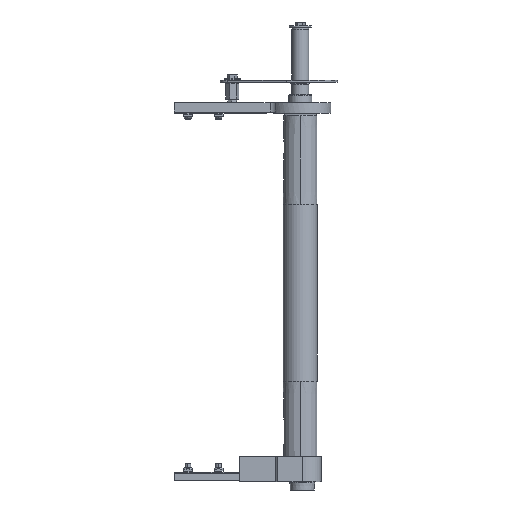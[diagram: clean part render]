
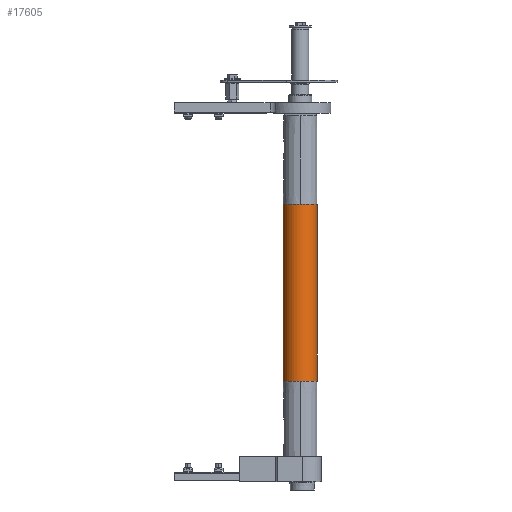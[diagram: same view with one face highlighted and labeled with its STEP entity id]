
A CAD part, front view. The second image highlights one B-rep face of the part: STEP entity #17605.
In plain terms, the highlighted cylindrical face has radius 25 mm (diameter 50 mm), a partial arc.
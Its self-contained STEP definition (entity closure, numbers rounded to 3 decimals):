
#159 = VERTEX_POINT ( 'NONE', #7830 ) ;
#269 = CARTESIAN_POINT ( 'NONE',  ( 130., 0., 25. ) ) ;
#510 = VERTEX_POINT ( 'NONE', #15957 ) ;
#552 = CIRCLE ( 'NONE', #7028, 25. ) ;
#1258 = DIRECTION ( 'NONE',  ( -1., 0., 0. ) ) ;
#1486 = DIRECTION ( 'NONE',  ( 0., -1., 0. ) ) ;
#1903 = AXIS2_PLACEMENT_3D ( 'NONE', #16484, #4540, #4682 ) ;
#2808 = CARTESIAN_POINT ( 'NONE',  ( -130., 0., 25. ) ) ;
#3097 = CARTESIAN_POINT ( 'NONE',  ( -130., 0., 0. ) ) ;
#3163 = LINE ( 'NONE', #7463, #3692 ) ;
#3692 = VECTOR ( 'NONE', #7390, 1000. ) ;
#4038 = DIRECTION ( 'NONE',  ( -1., 0., 0. ) ) ;
#4121 = CARTESIAN_POINT ( 'NONE',  ( 130., 0., 0. ) ) ;
#4345 = AXIS2_PLACEMENT_3D ( 'NONE', #15849, #5194, #8967 ) ;
#4540 = DIRECTION ( 'NONE',  ( -1., 0., 0. ) ) ;
#4682 = DIRECTION ( 'NONE',  ( 0., -1., 0. ) ) ;
#4902 = DIRECTION ( 'NONE',  ( -1., 0., 0. ) ) ;
#5194 = DIRECTION ( 'NONE',  ( -1., 0., 0. ) ) ;
#5207 = CYLINDRICAL_SURFACE ( 'NONE', #4345, 25. ) ;
#5735 = CARTESIAN_POINT ( 'NONE',  ( 130., 0., -25. ) ) ;
#5962 = EDGE_CURVE ( 'NONE', #15482, #510, #552, .T. ) ;
#6003 = CIRCLE ( 'NONE', #14866, 25. ) ;
#6045 = EDGE_CURVE ( 'NONE', #510, #159, #6003, .T. ) ;
#6881 = EDGE_CURVE ( 'NONE', #13754, #17138, #13576, .T. ) ;
#6977 = ORIENTED_EDGE ( 'NONE', *, *, #12587, .T. ) ;
#7028 = AXIS2_PLACEMENT_3D ( 'NONE', #10160, #18869, #1486 ) ;
#7092 = CIRCLE ( 'NONE', #1903, 25. ) ;
#7231 = CARTESIAN_POINT ( 'NONE',  ( 130., 25., 0. ) ) ;
#7390 = DIRECTION ( 'NONE',  ( -1., 0., 0. ) ) ;
#7463 = CARTESIAN_POINT ( 'NONE',  ( 260., 0., 25. ) ) ;
#7567 = DIRECTION ( 'NONE',  ( 0., -1., 0. ) ) ;
#7830 = CARTESIAN_POINT ( 'NONE',  ( -130., 0., -25. ) ) ;
#8212 = ORIENTED_EDGE ( 'NONE', *, *, #6881, .T. ) ;
#8453 = EDGE_CURVE ( 'NONE', #17064, #15482, #3163, .T. ) ;
#8538 = ORIENTED_EDGE ( 'NONE', *, *, #14740, .T. ) ;
#8967 = DIRECTION ( 'NONE',  ( 0., 0., 1. ) ) ;
#9157 = ORIENTED_EDGE ( 'NONE', *, *, #6045, .F. ) ;
#9241 = ORIENTED_EDGE ( 'NONE', *, *, #5962, .F. ) ;
#10160 = CARTESIAN_POINT ( 'NONE',  ( -130., 0., 0. ) ) ;
#12004 = FACE_OUTER_BOUND ( 'NONE', #18806, .T. ) ;
#12587 = EDGE_CURVE ( 'NONE', #17064, #13754, #7092, .T. ) ;
#12831 = ORIENTED_EDGE ( 'NONE', *, *, #8453, .F. ) ;
#13576 = CIRCLE ( 'NONE', #19797, 25. ) ;
#13754 = VERTEX_POINT ( 'NONE', #7231 ) ;
#14740 = EDGE_CURVE ( 'NONE', #17138, #159, #21311, .T. ) ;
#14866 = AXIS2_PLACEMENT_3D ( 'NONE', #3097, #4902, #15121 ) ;
#15121 = DIRECTION ( 'NONE',  ( 0., -1., 0. ) ) ;
#15482 = VERTEX_POINT ( 'NONE', #2808 ) ;
#15849 = CARTESIAN_POINT ( 'NONE',  ( 260., 0., 0. ) ) ;
#15957 = CARTESIAN_POINT ( 'NONE',  ( -130., 25., 0. ) ) ;
#16484 = CARTESIAN_POINT ( 'NONE',  ( 130., 0., 0. ) ) ;
#17064 = VERTEX_POINT ( 'NONE', #269 ) ;
#17138 = VERTEX_POINT ( 'NONE', #5735 ) ;
#17605 = ADVANCED_FACE ( 'NONE', ( #12004 ), #5207, .T. ) ;
#18059 = VECTOR ( 'NONE', #1258, 1000. ) ;
#18806 = EDGE_LOOP ( 'NONE', ( #6977, #8212, #8538, #9157, #9241, #12831 ) ) ;
#18869 = DIRECTION ( 'NONE',  ( -1., 0., 0. ) ) ;
#19797 = AXIS2_PLACEMENT_3D ( 'NONE', #4121, #4038, #7567 ) ;
#21311 = LINE ( 'NONE', #22106, #18059 ) ;
#22106 = CARTESIAN_POINT ( 'NONE',  ( 260., 0., -25. ) ) ;
